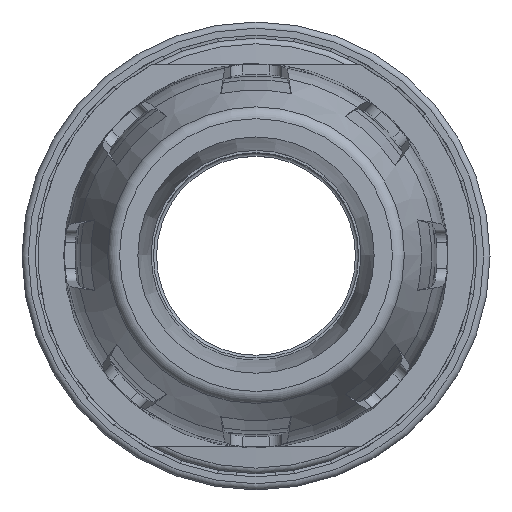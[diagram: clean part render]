
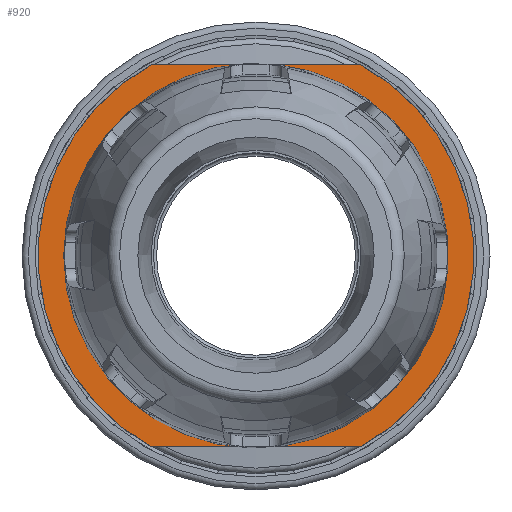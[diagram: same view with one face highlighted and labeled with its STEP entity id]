
A CAD part, top view. The second image highlights one B-rep face of the part: STEP entity #920.
In plain terms, the highlighted planar face has unit normal (0, 0, 1).
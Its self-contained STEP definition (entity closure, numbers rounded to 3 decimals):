
#920 = ADVANCED_FACE( '', ( #2075, #2076 ), #2077, .F. );
#2075 = FACE_BOUND( '', #3854, .T. );
#2076 = FACE_OUTER_BOUND( '', #3855, .T. );
#2077 = PLANE( '', #3856 );
#3854 = EDGE_LOOP( '', ( #6792 ) );
#3855 = EDGE_LOOP( '', ( #6793, #6794, #6795, #6796 ) );
#3856 = AXIS2_PLACEMENT_3D( '', #6797, #6798, #6799 );
#6792 = ORIENTED_EDGE( '', *, *, #9401, .T. );
#6793 = ORIENTED_EDGE( '', *, *, #9778, .F. );
#6794 = ORIENTED_EDGE( '', *, *, #9876, .F. );
#6795 = ORIENTED_EDGE( '', *, *, #9877, .T. );
#6796 = ORIENTED_EDGE( '', *, *, #9878, .F. );
#6797 = CARTESIAN_POINT( '', ( -34.7, 0., -36. ) );
#6798 = DIRECTION( '', ( 0., 0., -1. ) );
#6799 = DIRECTION( '', ( 0., -1., 0. ) );
#9401 = EDGE_CURVE( '', #11418, #11418, #11419, .T. );
#9778 = EDGE_CURVE( '', #12003, #11982, #12005, .T. );
#9876 = EDGE_CURVE( '', #12144, #12003, #12145, .T. );
#9877 = EDGE_CURVE( '', #12144, #12146, #12147, .T. );
#9878 = EDGE_CURVE( '', #11982, #12146, #12148, .T. );
#11418 = VERTEX_POINT( '', #14896 );
#11419 = CIRCLE( '', #14897, 24.75 );
#11982 = VERTEX_POINT( '', #15928 );
#12003 = VERTEX_POINT( '', #16004 );
#12005 = LINE( '', #16007, #16008 );
#12144 = VERTEX_POINT( '', #16272 );
#12145 = CIRCLE( '', #16273, 34.7 );
#12146 = VERTEX_POINT( '', #16274 );
#12147 = LINE( '', #16275, #16276 );
#12148 = CIRCLE( '', #16277, 34.7 );
#14896 = CARTESIAN_POINT( '', ( 0., 24.75, -36. ) );
#14897 = AXIS2_PLACEMENT_3D( '', #18315, #18316, #18317 );
#15928 = CARTESIAN_POINT( '', ( -16.637, -30.452, -36. ) );
#16004 = CARTESIAN_POINT( '', ( 16.637, -30.452, -36. ) );
#16007 = CARTESIAN_POINT( '', ( 163.046, -30.452, -36. ) );
#16008 = VECTOR( '', #18742, 1000. );
#16272 = CARTESIAN_POINT( '', ( 16.637, 30.452, -36. ) );
#16273 = AXIS2_PLACEMENT_3D( '', #18828, #18829, #18830 );
#16274 = CARTESIAN_POINT( '', ( -16.637, 30.452, -36. ) );
#16275 = CARTESIAN_POINT( '', ( -34.7, 30.452, -36. ) );
#16276 = VECTOR( '', #18831, 1000. );
#16277 = AXIS2_PLACEMENT_3D( '', #18832, #18833, #18834 );
#18315 = CARTESIAN_POINT( '', ( 0., 0., -36. ) );
#18316 = DIRECTION( '', ( 0., 0., -1. ) );
#18317 = DIRECTION( '', ( 0., 1., 0. ) );
#18742 = DIRECTION( '', ( -1., 0., 0. ) );
#18828 = CARTESIAN_POINT( '', ( 0., 0., -36. ) );
#18829 = DIRECTION( '', ( 0., 0., -1. ) );
#18830 = DIRECTION( '', ( 0., 1., 0. ) );
#18831 = DIRECTION( '', ( -1., 0., 0. ) );
#18832 = CARTESIAN_POINT( '', ( 0., 0., -36. ) );
#18833 = DIRECTION( '', ( 0., 0., -1. ) );
#18834 = DIRECTION( '', ( 0., 1., 0. ) );
